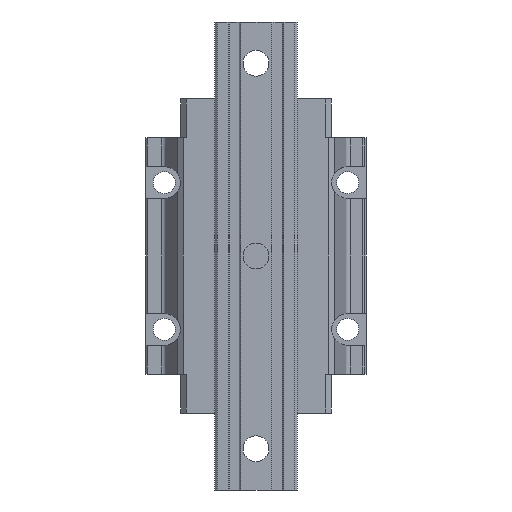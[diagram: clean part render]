
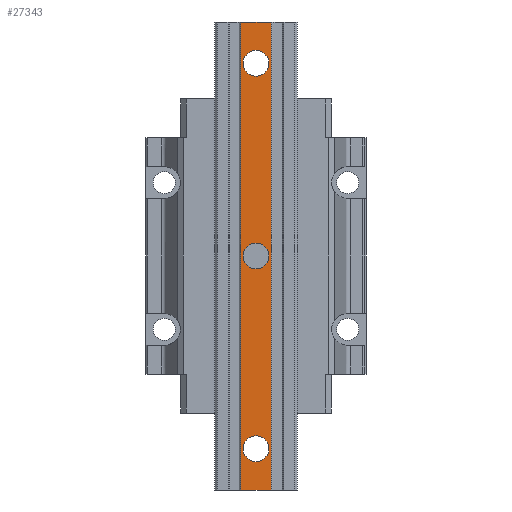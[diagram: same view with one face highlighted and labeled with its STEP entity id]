
A CAD part, front view. The second image highlights one B-rep face of the part: STEP entity #27343.
In plain terms, the highlighted planar face has unit normal (0, -1, 0).
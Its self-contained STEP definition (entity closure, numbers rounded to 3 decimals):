
#159 = DIRECTION ( 'NONE',  ( 0., 0., 1. ) ) ;
#173 = EDGE_CURVE ( 'NONE', #1065, #3688, #9894, .T. ) ;
#419 = CIRCLE ( 'NONE', #37580, 7. ) ;
#527 = CARTESIAN_POINT ( 'NONE',  ( -8.25, -38., 127.5 ) ) ;
#639 = DIRECTION ( 'NONE',  ( 1., 0., 0. ) ) ;
#1065 = VERTEX_POINT ( 'NONE', #23279 ) ;
#1796 = CARTESIAN_POINT ( 'NONE',  ( 8.25, -38., 127.5 ) ) ;
#1963 = DIRECTION ( 'NONE',  ( 0., 1., 0. ) ) ;
#2456 = CARTESIAN_POINT ( 'NONE',  ( 0., -38., 98. ) ) ;
#3407 = CARTESIAN_POINT ( 'NONE',  ( 8.25, -38., -127.5 ) ) ;
#3585 = CIRCLE ( 'NONE', #4220, 7. ) ;
#3688 = VERTEX_POINT ( 'NONE', #1796 ) ;
#3702 = DIRECTION ( 'NONE',  ( 0., 1., 0. ) ) ;
#3988 = VERTEX_POINT ( 'NONE', #18295 ) ;
#4220 = AXIS2_PLACEMENT_3D ( 'NONE', #36644, #1963, #27867 ) ;
#4384 = DIRECTION ( 'NONE',  ( 0., 0., -1. ) ) ;
#5228 = ORIENTED_EDGE ( 'NONE', *, *, #16664, .T. ) ;
#5237 = VERTEX_POINT ( 'NONE', #13458 ) ;
#5759 = EDGE_CURVE ( 'NONE', #33705, #30633, #19197, .T. ) ;
#6495 = FACE_OUTER_BOUND ( 'NONE', #36145, .T. ) ;
#7069 = DIRECTION ( 'NONE',  ( 0., 1., 0. ) ) ;
#7451 = DIRECTION ( 'NONE',  ( 0., 0., 1. ) ) ;
#7504 = DIRECTION ( 'NONE',  ( 0., 1., 0. ) ) ;
#7565 = DIRECTION ( 'NONE',  ( 0., -1., 0. ) ) ;
#8437 = DIRECTION ( 'NONE',  ( 1., 0., 0. ) ) ;
#8600 = VERTEX_POINT ( 'NONE', #35922 ) ;
#9439 = AXIS2_PLACEMENT_3D ( 'NONE', #18126, #7565, #27791 ) ;
#9511 = ORIENTED_EDGE ( 'NONE', *, *, #27085, .T. ) ;
#9894 = LINE ( 'NONE', #3407, #10264 ) ;
#10155 = CARTESIAN_POINT ( 'NONE',  ( 0., -38., 127.5 ) ) ;
#10264 = VECTOR ( 'NONE', #36025, 1000. ) ;
#10350 = ORIENTED_EDGE ( 'NONE', *, *, #22971, .T. ) ;
#10566 = CARTESIAN_POINT ( 'NONE',  ( 0., -38., 112. ) ) ;
#10625 = PLANE ( 'NONE',  #9439 ) ;
#11804 = ORIENTED_EDGE ( 'NONE', *, *, #14557, .T. ) ;
#12047 = ORIENTED_EDGE ( 'NONE', *, *, #18393, .T. ) ;
#12125 = CIRCLE ( 'NONE', #32837, 7. ) ;
#12377 = FACE_BOUND ( 'NONE', #30414, .T. ) ;
#12424 = EDGE_LOOP ( 'NONE', ( #31504, #28036 ) ) ;
#12780 = CARTESIAN_POINT ( 'NONE',  ( 0., -38., 0. ) ) ;
#13458 = CARTESIAN_POINT ( 'NONE',  ( 0., -38., -112. ) ) ;
#13764 = LINE ( 'NONE', #25408, #28954 ) ;
#14372 = EDGE_CURVE ( 'NONE', #33705, #3688, #36093, .T. ) ;
#14557 = EDGE_CURVE ( 'NONE', #36775, #22917, #3585, .T. ) ;
#15007 = CARTESIAN_POINT ( 'NONE',  ( 0., -38., 105. ) ) ;
#15451 = ORIENTED_EDGE ( 'NONE', *, *, #5759, .T. ) ;
#16397 = CARTESIAN_POINT ( 'NONE',  ( 0., -38., 0. ) ) ;
#16664 = EDGE_CURVE ( 'NONE', #22917, #36775, #23408, .T. ) ;
#17294 = DIRECTION ( 'NONE',  ( 0., 1., 0. ) ) ;
#17550 = VECTOR ( 'NONE', #639, 1000. ) ;
#17889 = CARTESIAN_POINT ( 'NONE',  ( 0., -38., -98. ) ) ;
#18126 = CARTESIAN_POINT ( 'NONE',  ( -8.25, -38., -127.5 ) ) ;
#18295 = CARTESIAN_POINT ( 'NONE',  ( 0., -38., 7. ) ) ;
#18324 = DIRECTION ( 'NONE',  ( 0., 0., 1. ) ) ;
#18393 = EDGE_CURVE ( 'NONE', #28613, #5237, #34042, .T. ) ;
#18581 = VECTOR ( 'NONE', #4384, 1000. ) ;
#19197 = LINE ( 'NONE', #30307, #18581 ) ;
#20348 = AXIS2_PLACEMENT_3D ( 'NONE', #15007, #17294, #159 ) ;
#22917 = VERTEX_POINT ( 'NONE', #10566 ) ;
#22971 = EDGE_CURVE ( 'NONE', #30633, #1065, #13764, .T. ) ;
#23279 = CARTESIAN_POINT ( 'NONE',  ( 8.25, -38., -127.5 ) ) ;
#23408 = CIRCLE ( 'NONE', #20348, 7. ) ;
#24208 = FACE_BOUND ( 'NONE', #33330, .T. ) ;
#24260 = AXIS2_PLACEMENT_3D ( 'NONE', #33640, #7504, #30783 ) ;
#24428 = EDGE_CURVE ( 'NONE', #8600, #3988, #419, .T. ) ;
#25093 = FACE_BOUND ( 'NONE', #12424, .T. ) ;
#25408 = CARTESIAN_POINT ( 'NONE',  ( 0., -38., -127.5 ) ) ;
#25604 = CARTESIAN_POINT ( 'NONE',  ( -8.25, -38., -127.5 ) ) ;
#26913 = ORIENTED_EDGE ( 'NONE', *, *, #173, .T. ) ;
#27047 = AXIS2_PLACEMENT_3D ( 'NONE', #29806, #3702, #27501 ) ;
#27085 = EDGE_CURVE ( 'NONE', #5237, #28613, #30121, .T. ) ;
#27343 = ADVANCED_FACE ( 'NONE', ( #12377, #24208, #25093, #6495 ), #10625, .T. ) ;
#27501 = DIRECTION ( 'NONE',  ( 0., 0., 1. ) ) ;
#27791 = DIRECTION ( 'NONE',  ( 0., 0., -1. ) ) ;
#27867 = DIRECTION ( 'NONE',  ( 0., 0., 1. ) ) ;
#28036 = ORIENTED_EDGE ( 'NONE', *, *, #24428, .T. ) ;
#28613 = VERTEX_POINT ( 'NONE', #17889 ) ;
#28954 = VECTOR ( 'NONE', #8437, 1000. ) ;
#29806 = CARTESIAN_POINT ( 'NONE',  ( 0., -38., -105. ) ) ;
#29989 = ORIENTED_EDGE ( 'NONE', *, *, #14372, .F. ) ;
#30121 = CIRCLE ( 'NONE', #27047, 7. ) ;
#30307 = CARTESIAN_POINT ( 'NONE',  ( -8.25, -38., -127.5 ) ) ;
#30414 = EDGE_LOOP ( 'NONE', ( #12047, #9511 ) ) ;
#30633 = VERTEX_POINT ( 'NONE', #25604 ) ;
#30783 = DIRECTION ( 'NONE',  ( 0., 0., 1. ) ) ;
#31504 = ORIENTED_EDGE ( 'NONE', *, *, #35901, .T. ) ;
#32837 = AXIS2_PLACEMENT_3D ( 'NONE', #16397, #33965, #7451 ) ;
#33330 = EDGE_LOOP ( 'NONE', ( #5228, #11804 ) ) ;
#33640 = CARTESIAN_POINT ( 'NONE',  ( 0., -38., -105. ) ) ;
#33705 = VERTEX_POINT ( 'NONE', #527 ) ;
#33965 = DIRECTION ( 'NONE',  ( 0., 1., 0. ) ) ;
#34042 = CIRCLE ( 'NONE', #24260, 7. ) ;
#35901 = EDGE_CURVE ( 'NONE', #3988, #8600, #12125, .T. ) ;
#35922 = CARTESIAN_POINT ( 'NONE',  ( 0., -38., -7. ) ) ;
#36025 = DIRECTION ( 'NONE',  ( 0., 0., 1. ) ) ;
#36093 = LINE ( 'NONE', #10155, #17550 ) ;
#36145 = EDGE_LOOP ( 'NONE', ( #26913, #29989, #15451, #10350 ) ) ;
#36644 = CARTESIAN_POINT ( 'NONE',  ( 0., -38., 105. ) ) ;
#36775 = VERTEX_POINT ( 'NONE', #2456 ) ;
#37580 = AXIS2_PLACEMENT_3D ( 'NONE', #12780, #7069, #18324 ) ;
